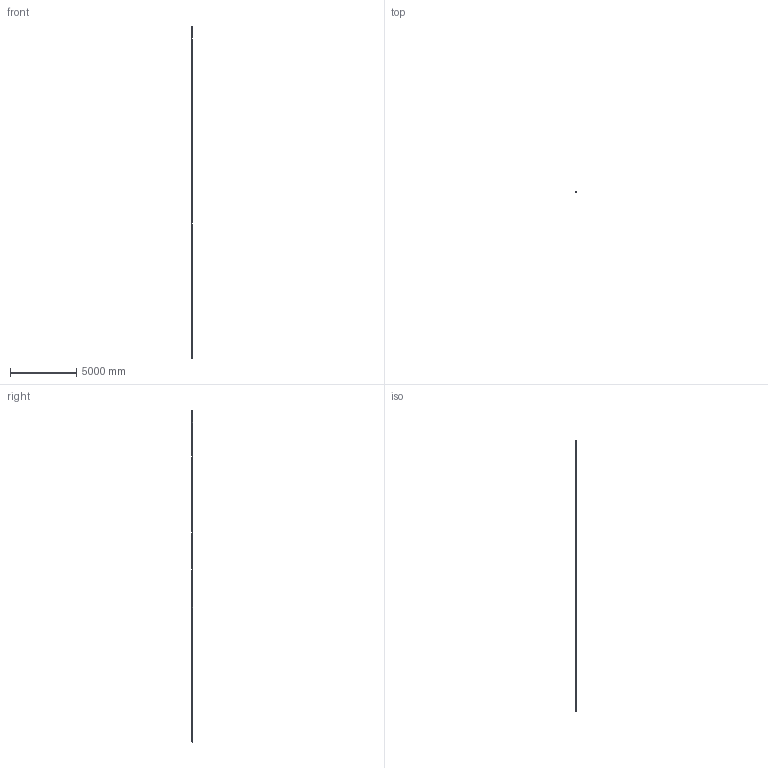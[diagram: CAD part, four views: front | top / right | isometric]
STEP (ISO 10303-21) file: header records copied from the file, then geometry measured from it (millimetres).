
FILE_DESCRIPTION(('Creo Elements/Direct Modeling STEP Export'),'2;1');
FILE_NAME('F-248.stp','2011-11-18T12:08:09',(''),(''),'Creo Elements/Direct Modeling STEP processor for AP214 (Solid Model)','Creo Elements/Direct Modeling 17.0C 05-Feb-2011 (C) Parametric Technology GmbH','');
FILE_SCHEMA(('AUTOMOTIVE_DESIGN { 1 0 10303 214 1 1 1 1 }'));
Length unit declared in the file: millimetre
Products named in the file (5): Modulos_intermedio_(FL-14).12.1; CABEZA; Modulo_der_(10E); Modulo_izq_(K); F-248
Assembly tree (19 placements, depth 2):
  F-248
    Modulos_intermedio_(FL-14).12.1  x16
    Modulo_izq_(K)
    Modulo_der_(10E)
    CABEZA
Bounding box: 51.5 x 87.95 x 25135.6 mm (x, y, z)
Volume: 63965556.6 mm3; surface area: 7337657.1 mm2
Topology: 20 solids, 169 shells, 10569 faces, 29463 edges, 18763 vertices
Faces by surface type: cylinder 4624, plane 3897, cone 844, torus 557, bspline 467, extrusion 170, sphere 10
Entity records: 101942 total; most frequent: CARTESIAN_POINT 31618, ORIENTED_EDGE 15000, DIRECTION 13072, EDGE_CURVE 7494, VERTEX_POINT 4841, AXIS2_PLACEMENT_3D 4610, VECTOR 3852, LINE 3832
